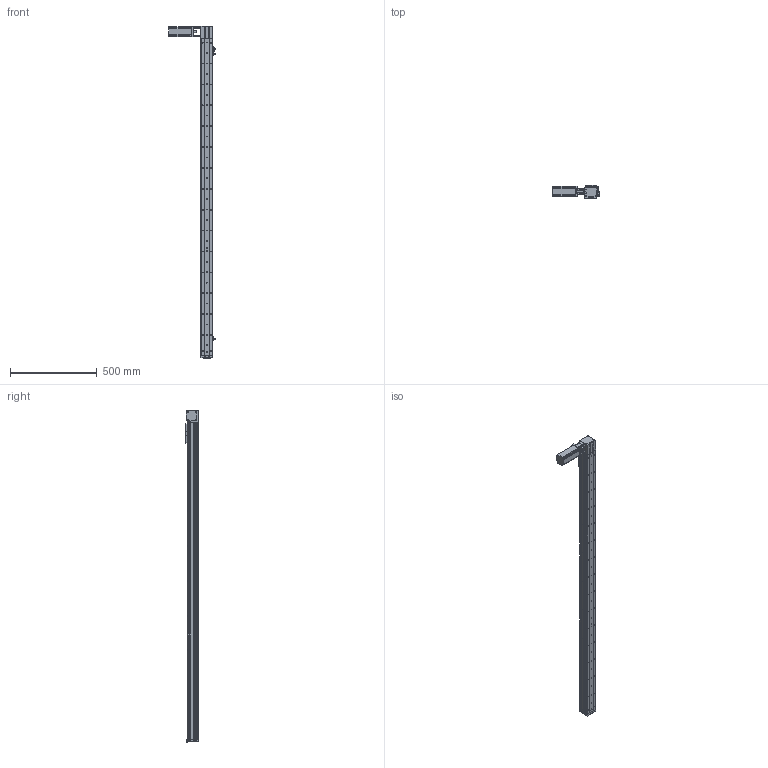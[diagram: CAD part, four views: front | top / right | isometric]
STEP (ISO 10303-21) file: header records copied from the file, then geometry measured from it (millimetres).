
FILE_DESCRIPTION (( 'STEP AP214' ), '1' );
FILE_NAME ('KSD68BS-S1650-MLT-CR.STEP', '2019-11-08T05:39:25', ( '微软用户' ), ( '微软中国' ), 'SwSTEP 2.0', 'SolidWorks 2014', '' );
FILE_SCHEMA (( 'AUTOMOTIVE_DESIGN' ));
Length unit declared in the file: millimetre
Products named in the file (13): 100遵鎮湛假蚾啣1; 68遵裔啣揤啣1; KSD68BS 1650行程盖板全封闭; 68宽单导轨全封闭丝杆传动安装板1防护罩; KSD68BS 1650行程侧板全封闭; 68宽单导轨全封闭同步带端板; 68单导轨全封闭同步带电机座右; 68单导轨全封闭同步带安装板; 感应片68宽全封闭; U倰嫖萇EEㄜSX672; 台达ECMA－C20604AS伺服电机（400W); KSD68BS 1650行程底板全封闭; KSD68BS-S1650-MLT-CR
Assembly tree (15 placements, depth 2):
  KSD68BS-S1650-MLT-CR
    KSD68BS 1650行程底板全封闭
    台达ECMA－C20604AS伺服电机（400W)
    U倰嫖萇EEㄜSX672  x3
    感应片68宽全封闭
    68单导轨全封闭同步带安装板
    68单导轨全封闭同步带电机座右
    68宽单导轨全封闭同步带端板
    KSD68BS 1650行程侧板全封闭  x2
    68宽单导轨全封闭丝杆传动安装板1防护罩
    KSD68BS 1650行程盖板全封闭
    68遵裔啣揤啣1
    100遵鎮湛假蚾啣1
Bounding box: 266.4 x 77 x 1908.1 mm (x, y, z)
Volume: 3359615.5 mm3; surface area: 1345245.8 mm2
Topology: 16 solids, 16 shells, 1545 faces, 4475 edges, 2845 vertices
Faces by surface type: cylinder 760, plane 597, cone 188
Entity records: 51165 total; most frequent: CARTESIAN_POINT 8872, DIRECTION 7548, ORIENTED_EDGE 7224, EDGE_CURVE 3612, AXIS2_PLACEMENT_3D 2759, VERTEX_POINT 2367, VECTOR 2030, LINE 2030
